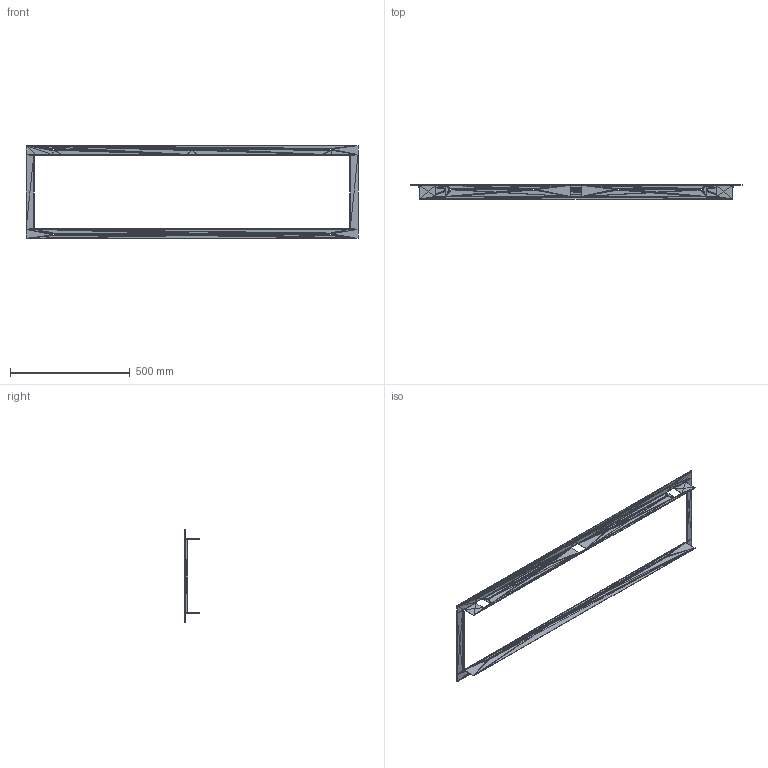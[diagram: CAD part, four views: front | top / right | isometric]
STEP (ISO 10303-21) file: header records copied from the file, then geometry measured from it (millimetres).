
FILE_DESCRIPTION((''),'2;1');
FILE_NAME('004320', '2025-07-24T06:36:13', (''), (''), 'ImageToStl.com STEP Converter','', '');
FILE_SCHEMA(('AUTOMOTIVE_DESIGN_CC2'));
Length unit declared in the file: metre
Products named in the file (1): product0
Bounding box: 1385 x 60 x 387 mm (x, y, z)
Surface area: 575076.9 mm2 (no closed solid volume)
Topology: 0 solids, 1244 shells, 1244 faces, 3732 edges, 594 vertices
Faces by surface type: plane 1244
Entity records: 28584 total; most frequent: DIRECTION 6222, ORIENTED_EDGE 3732, EDGE_CURVE 3732, LINE 3732, VECTOR 3732, AXIS2_PLACEMENT_3D 1245, FACE_SURFACE 1244, PLANE 1244
